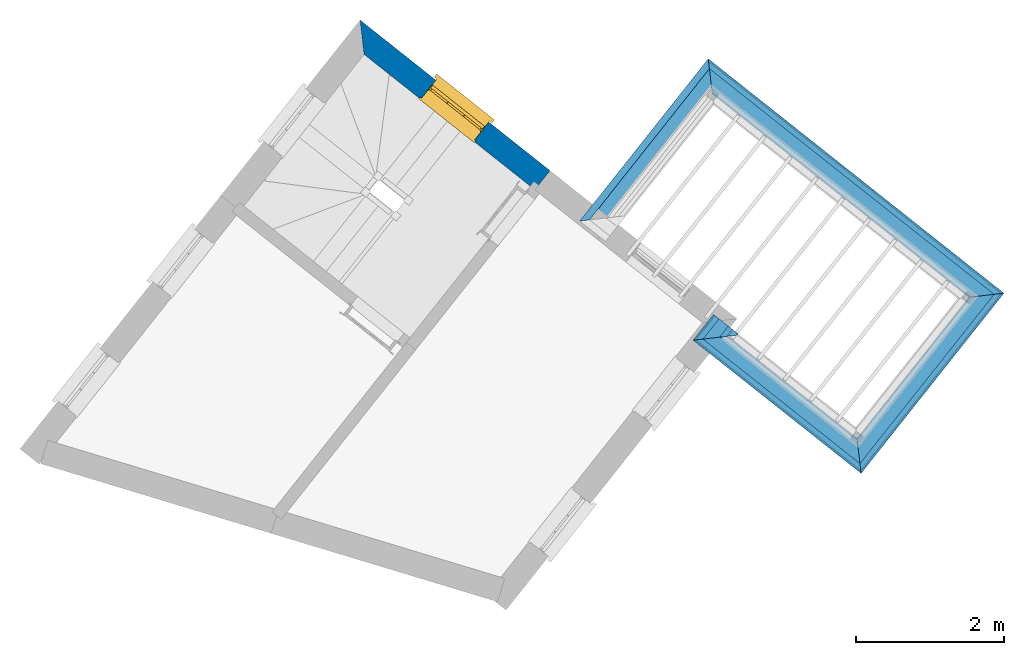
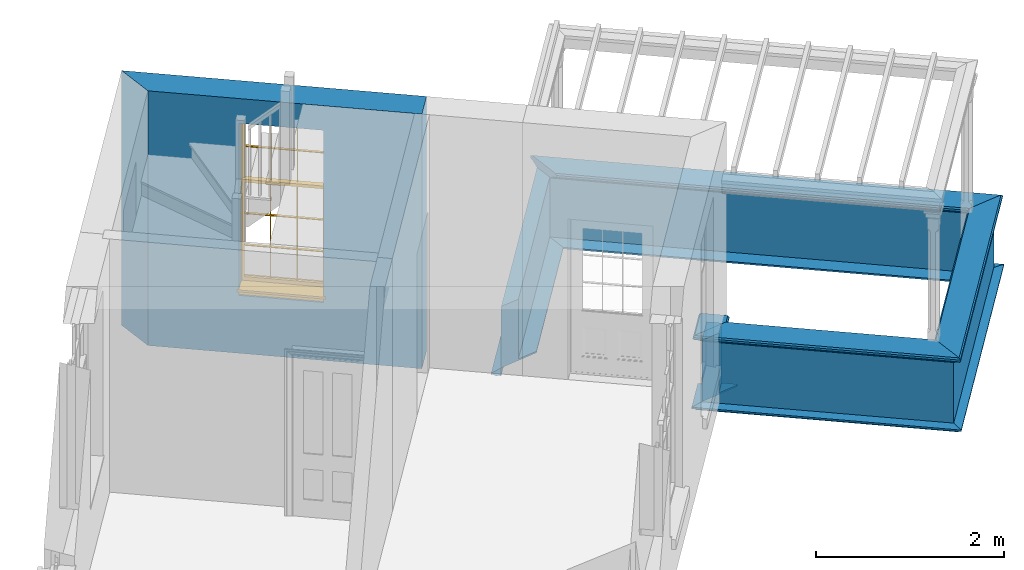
# One storey, part 4 of 6: 15 walls, 1 window, 1 opening.
"""IFC4 building model written with IfcOpenShell, lengths in metres."""

from ifc_helpers import new_model, si_unit, frame, origin, origin_with_axes, place, context, subcontext, project, spatial, polyline, outline, extrude, clip, halfspace, faceted_brep, source, transform, mapped, material, layer, layer_set, layer_usage, material_profile, profile_set, profile_usage, type_object, type_shapes, element, fill, save


model = new_model("IFC4")

# Units and contexts
model_context = context("Model", 3, world=origin_with_axes())
body_context = subcontext(model_context, "Body", "Model", "MODEL_VIEW")
ifc_project = project(units=[si_unit("PLANEANGLEUNIT", "RADIAN"), si_unit("MASSUNIT", "GRAM", prefix="KILO"), si_unit("FORCEUNIT", "NEWTON", prefix="KILO"), si_unit("LENGTHUNIT", "METRE"), si_unit("AREAUNIT", "SQUARE_METRE"), si_unit("VOLUMEUNIT", "CUBIC_METRE")], contexts=[model_context, model_context])

# Sites, building, storey
site_1_placement = place(None, origin_with_axes())
site_1 = spatial("IfcSite", under=ifc_project, at=site_1_placement, Name="Tamar")
site_2_placement = place(site_1_placement, origin_with_axes())
site_2 = spatial("IfcSite", under=site_1, at=site_2_placement, Name="Site plot-5", CompositionType="ELEMENT")
building_placement = place(None, origin_with_axes())
building = spatial("IfcBuilding", under=site_2, at=building_placement, Name="Building plot-5", CompositionType="ELEMENT")
storey_placement = place(None, frame((0.0, 0.0, 26.85), z_axis=(0.0, 0.0, 1.0), x_axis=(1.0, 0.0, 0.0)))
storey = spatial("IfcBuildingStorey", under=building, at=storey_placement, Name="plot-5 1", CompositionType="ELEMENT", Elevation=26.85)

# Wall, opening, window
ifc_material = material(Name="Masonry")
ifc_layer = layer(ifc_material, 0.33, ventilated=False)
ifc_layer_set = layer_set([ifc_layer], Name="exterior_0.08_0.25")
ifc_layer_usage = layer_usage(ifc_layer_set, "AXIS2", "POSITIVE", -0.25)
wall_type_1 = type_object("IfcWallType", Name="exterior_0.08_0.25", PredefinedType="SOLIDWALL", material=ifc_layer_set)
wall_1_placement = place(storey_placement, frame((231.883370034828, 275.676458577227, 0.0), z_axis=(0.0, 0.0, 1.0), x_axis=(-0.783658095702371, 0.621192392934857, 0.0)))
wall_1 = element("IfcWall", 1, at=wall_1_placement, inside=storey, type_object=wall_type_1, material=ifc_layer_usage, Name="exterior", context=body_context, shape_type="SweptSolid", body=[
    extrude(outline(polyline([(-4.75573774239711e-15, 0.0800000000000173), (-7.97829769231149e-15, -0.249999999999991), (3.27031657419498, -0.249999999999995), (2.94031657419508, 0.0799999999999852), (-4.75573774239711e-15, 0.0800000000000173)])), origin_with_axes(), (0.0, 0.0, 1.0), 3.3),
])
opening_placement = place(wall_1_placement, frame((1.0551582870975, 0.0, 0.75)))
opening = element("IfcOpeningElement", 2, at=opening_placement, cuts=wall_1, Name="My Opening", ObjectType="Opening", context=body_context, shape_type="SweptSolid", body=[
    extrude(outline(polyline([(0.0, -0.269999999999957), (0.910000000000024, -0.269999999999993), (0.910000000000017, 1.09999999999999), (-6.88338275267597e-15, 1.10000000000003), (0.0, -0.269999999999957)])), origin_with_axes(), (0.0, 0.0, 1.0), 2.23),
])
window_type = type_object("IfcWindowType", Name="sash_big_taller", PartitioningType="DOUBLE_PANEL_HORIZONTAL", PredefinedType="NOTDEFINED")
shared_shape = source(origin(), body_context, "Body", "Brep", [
    faceted_brep([(0.033125, 0.145, 1.385209), (0.01, 0.145, 1.385209), (0.033125, 0.145, 1.786042), (0.876875, 0.145, 1.385209), (0.876875, 0.145, 1.786042), (0.9, 0.145, 1.385209), (0.876875, 0.145, 1.796042), (0.876875, 0.145, 2.196875), (0.9, 0.145, 2.22), (0.033125, 0.145, 2.196875), (0.033125, 0.145, 1.796042), (0.01, 0.145, 2.22), (0.876875, 0.115, 1.786042), (0.876875, 0.115, 1.385209), (0.9, 0.115, 1.347084), (0.033125, 0.115, 2.196875), (0.01, 0.115, 2.22), (0.033125, 0.115, 1.796042), (0.01, 0.115, 1.347084), (0.033125, 0.115, 1.385209), (0.033125, 0.115, 1.786042), (0.876875, 0.115, 2.196875), (0.876875, 0.115, 1.796042), (0.9, 0.115, 2.22), (0.033125, 0.145, 1.347084), (0.01, 0.145, 1.347084), (0.033125, 0.145, 0.94625), (0.876875, 0.145, 1.347084), (0.876875, 0.145, 0.94625), (0.9, 0.145, 1.347084), (0.876875, 0.145, 0.52625), (0.876875, 0.145, 0.125417), (0.9, 0.145, 0.077167), (0.033125, 0.145, 0.125417), (0.033125, 0.145, 0.52625), (0.01, 0.145, 0.077167), (-0.0425, 0.0, 0.01), (-0.0425, -0.05, 0.001667), (0.0, 0.0, 0.01), (0.9525, 0.0, 0.01), (0.91, 0.0, 0.01), (0.9525, -0.05, 0.001667), (-0.02, 0.33, 0.077167), (0.0, 0.33, 0.077167), (-0.02, 0.36, 0.077167), (0.0, 0.19, 0.077167), (0.01, 0.19, 0.077167), (0.91, 0.19, 0.077167), (0.91, 0.33, 0.077167), (0.9, 0.19, 0.077167), (0.93, 0.33, 0.077167), (0.93, 0.36, 0.077167), (0.01, 0.175, 1.385209), (0.9, 0.175, 1.385209), (0.876875, 0.175, 0.125417), (0.876875, 0.175, 0.52625), (0.9, 0.175, 0.077167), (0.876875, 0.175, 0.94625), (0.876875, 0.175, 1.347084), (0.033125, 0.175, 0.125417), (0.01, 0.175, 0.077167), (0.033125, 0.175, 0.52625), (0.033125, 0.175, 1.347084), (0.033125, 0.175, 0.94625), (-0.02, 0.33, 0.052167), (-0.02, 0.36, 0.052167), (0.93, 0.36, 0.052167), (0.93, 0.33, 0.052167), (0.91, 0.33, 0.052167), (0.0, 0.33, 0.052167), (0.91, 0.1, 0.026667), (0.0, 0.1, 0.026667), (-0.0425, -0.05, -0.123333), (0.9525, -0.05, -0.123333), (-0.0425, 0.0, -0.123333), (0.9525, 0.0, -0.123333), (0.01, 0.19, 2.22), (0.9, 0.19, 2.22), (0.0, 0.19, 2.23), (0.91, 0.19, 2.23), (0.01, 0.1, 0.077167), (0.9, 0.1, 0.077167), (0.592292, 0.145, 0.125417), (0.592292, 0.175, 0.125417), (0.317708, 0.175, 0.125417), (0.317708, 0.145, 0.125417), (0.592292, 0.145, 0.53625), (0.317708, 0.145, 0.53625), (0.317708, 0.145, 0.52625), (0.592292, 0.145, 0.52625), (0.592292, 0.175, 0.53625), (0.317708, 0.175, 0.53625), (0.592292, 0.115, 1.796042), (0.592292, 0.145, 1.796042), (0.317708, 0.145, 1.796042), (0.317708, 0.115, 1.796042), (0.317708, 0.115, 1.786042), (0.592292, 0.115, 1.786042), (0.317708, 0.145, 1.786042), (0.592292, 0.145, 1.786042), (0.602292, 0.115, 1.786042), (0.592292, 0.115, 1.385209), (0.602292, 0.115, 1.385209), (0.602292, 0.145, 1.385209), (0.592292, 0.145, 1.385209), (0.602292, 0.145, 1.786042), (0.876875, 0.145, 0.53625), (0.876875, 0.175, 0.53625), (0.602292, 0.175, 0.53625), (0.602292, 0.145, 0.53625), (0.317708, 0.175, 0.52625), (0.307708, 0.175, 0.125417), (0.307708, 0.175, 0.52625), (0.602292, 0.175, 0.52625), (0.602292, 0.175, 0.125417), (0.592292, 0.175, 0.52625), (0.307708, 0.175, 0.53625), (0.033125, 0.175, 0.53625), (0.317708, 0.175, 1.347084), (0.317708, 0.175, 0.94625), (0.307708, 0.175, 0.94625), (0.307708, 0.175, 1.347084), (0.602292, 0.175, 1.347084), (0.602292, 0.175, 0.94625), (0.592292, 0.175, 0.94625), (0.592292, 0.175, 1.347084), (0.307708, 0.145, 0.52625), (0.307708, 0.145, 0.125417), (0.307708, 0.145, 0.53625), (0.033125, 0.145, 0.53625), (0.307708, 0.145, 1.347084), (0.307708, 0.145, 0.94625), (0.592292, 0.145, 1.347084), (0.592292, 0.145, 0.94625), (0.317708, 0.145, 0.94625), (0.317708, 0.145, 1.347084), (0.602292, 0.145, 0.94625), (0.602292, 0.145, 1.347084), (0.602292, 0.145, 0.52625), (0.602292, 0.145, 0.125417), (0.307708, 0.115, 1.796042), (0.307708, 0.115, 1.786042), (0.307708, 0.115, 1.385209), (0.317708, 0.115, 1.385209), (0.317708, 0.115, 2.196875), (0.307708, 0.115, 2.196875), (0.602292, 0.115, 2.196875), (0.592292, 0.115, 2.196875), (0.602292, 0.115, 1.796042), (0.602292, 0.145, 1.796042), (0.307708, 0.145, 1.796042), (0.307708, 0.145, 2.196875), (0.317708, 0.145, 2.196875), (0.592292, 0.145, 2.196875), (0.602292, 0.145, 2.196875), (0.307708, 0.145, 1.786042), (0.317708, 0.145, 1.385209), (0.307708, 0.145, 1.385209), (0.876875, 0.175, 0.93625), (0.033125, 0.175, 0.93625), (0.033125, 0.145, 0.93625), (0.876875, 0.145, 0.93625), (0.91, 0.1, 2.23), (0.9, 0.1, 2.22), (0.01, 0.1, 2.22), (0.0, 0.1, 2.23), (0.91, 0.0, 0.0), (0.0, 0.0, 0.0), (0.91, 0.33, 0.0), (0.0, 0.33, 0.0), (0.317708, 0.145, 0.93625), (0.592292, 0.145, 0.93625), (0.317708, 0.175, 0.93625), (0.307708, 0.175, 0.93625), (0.602292, 0.175, 0.93625), (0.592292, 0.175, 0.93625), (0.307708, 0.145, 0.93625), (0.602292, 0.145, 0.93625)], [[[0, 1, 2]], [[3, 4, 5]], [[6, 7, 8]], [[9, 10, 11]], [[12, 13, 14]], [[15, 16, 17]], [[18, 19, 20]], [[21, 22, 23]], [[24, 25, 26]], [[27, 28, 29]], [[30, 31, 32]], [[33, 34, 35]], [[14, 27, 29]], [[25, 24, 18]], [[36, 37, 38]], [[39, 40, 41]], [[42, 43, 44]], [[45, 46, 43]], [[47, 48, 49]], [[50, 51, 48]], [[1, 0, 52]], [[5, 53, 3]], [[54, 55, 56]], [[57, 58, 53]], [[59, 60, 61]], [[62, 63, 52]], [[48, 43, 46, 49]], [[51, 44, 43, 48]], [[64, 42, 44, 65]], [[65, 44, 51, 66]], [[66, 51, 50, 67]], [[65, 66, 68, 69]], [[60, 56, 49, 46]], [[70, 71, 38, 40]], [[37, 41, 40, 38]], [[37, 72, 73, 41]], [[74, 75, 73, 72]], [[8, 11, 76, 77]], [[76, 78, 79, 77]], [[32, 35, 80, 81]], [[81, 80, 71, 70]], [[82, 83, 84, 85]], [[86, 87, 88, 89]], [[86, 90, 91, 87]], [[92, 93, 94, 95]], [[92, 95, 96, 97]], [[96, 98, 99, 97]], [[100, 97, 101, 102]], [[103, 104, 99, 105]], [[97, 99, 104, 101]], [[102, 103, 105, 100]], [[106, 107, 108, 109]], [[110, 84, 111, 112]], [[113, 114, 83, 115]], [[116, 112, 61, 117]], [[90, 115, 110, 91]], [[118, 119, 120, 121]], [[122, 123, 124, 125]], [[113, 108, 107, 55]], [[126, 112, 111, 127]], [[34, 61, 112, 126]], [[89, 115, 83, 82]], [[88, 110, 115, 89]], [[85, 84, 110, 88]], [[128, 116, 117, 129]], [[130, 121, 120, 131]], [[132, 125, 124, 133]], [[134, 119, 118, 135]], [[136, 123, 122, 137]], [[138, 113, 55, 30]], [[139, 114, 113, 138]], [[138, 30, 106, 109]], [[88, 126, 127, 85]], [[138, 89, 82, 139]], [[137, 132, 133, 136]], [[128, 129, 34, 126]], [[135, 130, 131, 134]], [[140, 17, 20, 141]], [[96, 141, 142, 143]], [[144, 145, 140, 95]], [[146, 147, 92, 148]], [[100, 12, 22, 148]], [[149, 6, 4, 105]], [[94, 150, 151, 152]], [[149, 93, 153, 154]], [[99, 98, 94, 93]], [[155, 2, 10, 150]], [[156, 157, 155, 98]], [[141, 155, 157, 142]], [[20, 2, 155, 141]], [[143, 156, 98, 96]], [[140, 150, 10, 17]], [[145, 151, 150, 140]], [[147, 153, 93, 92]], [[95, 94, 152, 144]], [[22, 6, 149, 148]], [[148, 149, 154, 146]], [[100, 105, 4, 12]], [[109, 86, 89, 138]], [[108, 113, 115, 90]], [[91, 110, 112, 116]], [[87, 128, 126, 88]], [[97, 100, 148, 92]], [[141, 96, 95, 140]], [[98, 155, 150, 94]], [[105, 99, 93, 149]], [[143, 101, 104, 156]], [[135, 118, 125, 132]], [[144, 152, 153, 147]], [[127, 111, 59, 33]], [[15, 9, 151, 145]], [[146, 154, 7, 21]], [[31, 54, 114, 139]], [[36, 74, 72, 37]], [[39, 41, 73, 75]], [[18, 14, 101, 143]], [[23, 16, 144, 147]], [[83, 56, 60, 84]], [[52, 53, 125, 118]], [[53, 52, 156, 104]], [[11, 8, 153, 152]], [[14, 18, 135, 132]], [[2, 1, 11, 10]], [[8, 5, 4, 6]], [[57, 53, 56, 158]], [[60, 52, 63, 159]], [[26, 25, 35, 160]], [[32, 29, 28, 161]], [[14, 23, 22, 12]], [[18, 20, 17, 16]], [[19, 0, 2, 20]], [[17, 10, 9, 15]], [[12, 4, 3, 13]], [[21, 7, 6, 22]], [[27, 58, 57, 28]], [[30, 55, 54, 31]], [[33, 59, 61, 34]], [[26, 63, 62, 24]], [[5, 8, 77, 53]], [[76, 11, 1, 52]], [[46, 45, 78, 76]], [[49, 77, 79, 47]], [[70, 162, 163, 81]], [[71, 80, 164, 165]], [[19, 142, 157, 0]], [[102, 13, 3, 103]], [[121, 130, 24, 62]], [[29, 32, 81, 14]], [[80, 35, 25, 18]], [[60, 46, 76, 52]], [[77, 49, 56, 53]], [[23, 14, 81, 163]], [[16, 164, 80, 18]], [[35, 85, 127]], [[127, 33, 35]], [[139, 82, 32]], [[32, 31, 139]], [[32, 82, 85, 35]], [[102, 101, 14]], [[14, 13, 102]], [[18, 143, 142]], [[142, 19, 18]], [[146, 21, 23]], [[23, 147, 146]], [[16, 15, 145]], [[145, 144, 16]], [[11, 152, 151]], [[151, 9, 11]], [[154, 153, 8]], [[8, 7, 154]], [[23, 163, 164, 16]], [[162, 165, 164, 163]], [[52, 118, 121]], [[121, 62, 52]], [[125, 53, 122]], [[58, 122, 53]], [[27, 137, 122, 58]], [[56, 83, 114]], [[114, 54, 56]], [[111, 84, 60]], [[60, 59, 111]], [[137, 27, 14]], [[14, 132, 137]], [[130, 135, 18]], [[18, 24, 130]], [[157, 156, 52]], [[52, 0, 157]], [[103, 3, 53]], [[53, 104, 103]], [[79, 78, 165, 162]], [[78, 45, 71, 165]], [[162, 70, 47, 79]], [[166, 75, 74, 167]], [[68, 66, 67]], [[48, 68, 67, 50]], [[69, 64, 65]], [[42, 64, 69, 43]], [[69, 68, 168, 169]], [[70, 68, 48, 47]], [[166, 168, 68, 70]], [[43, 69, 71, 45]], [[69, 169, 167, 71]], [[168, 166, 167, 169]], [[38, 167, 74, 36]], [[71, 167, 38]], [[39, 75, 166, 40]], [[40, 166, 70]], [[133, 134, 170, 171]], [[133, 124, 119, 134]], [[28, 57, 123, 136]], [[172, 91, 116, 173]], [[174, 108, 90, 175]], [[120, 173, 159, 63]], [[124, 175, 172, 119]], [[174, 123, 57, 158]], [[176, 173, 116, 128]], [[160, 159, 173, 176]], [[171, 175, 90, 86]], [[170, 172, 175, 171]], [[87, 91, 172, 170]], [[131, 120, 63, 26]], [[177, 174, 158, 161]], [[109, 108, 174, 177]], [[177, 161, 28, 136]], [[170, 176, 128, 87]], [[177, 171, 86, 109]], [[131, 26, 160, 176]], [[136, 133, 171, 177]], [[123, 174, 175, 124]], [[119, 172, 173, 120]], [[134, 131, 176, 170]], [[129, 117, 159, 160]], [[161, 158, 107, 106]], [[35, 34, 129]], [[35, 129, 160]], [[32, 106, 30]], [[32, 161, 106]], [[56, 55, 107]], [[56, 107, 158]], [[60, 117, 61]], [[60, 159, 117]]]),
])
type_shapes(window_type, [shared_shape])
window_placement = place(storey_placement, frame((231.224208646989, 276.543502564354, 0.75), z_axis=(0.0, 0.0, 1.0), x_axis=(-0.713128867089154, 0.565285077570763, 0.0)))
window = element("IfcWindow", 3, at=window_placement, inside=storey, type_object=window_type, Name="circulation outside window", OverallHeight=2.23, OverallWidth=0.91, context=body_context, shape_type="MappedRepresentation", body=[
    mapped(shared_shape, transform((0.0, 0.0, 0.0), scale=1.0)),
])
fill(opening, window)

# Walls
ifc_material_profile_1 = material_profile(None, outline(polyline([(0.25, 0.0), (0.25, 0.795), (0.09, 0.795), (0.09, 0.02), (-0.08, 0.02), (-0.08, 0.0), (0.25, 0.0)])))
ifc_profile_set_1 = profile_set([ifc_material_profile_1])
ifc_profile_usage_1 = profile_usage(ifc_profile_set_1)
wall_type_2 = type_object("IfcWallType", Name="parapet_0", PredefinedType="PARAPET", material=ifc_profile_set_1)
wall_2_placement = place(storey_placement, frame((233.83006276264, 272.857281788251, 0.0), z_axis=(0.621192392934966, 0.783658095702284, 0.0), x_axis=(-0.783658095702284, 0.621192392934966, 0.0)))
element("IfcWall", 4, at=wall_2_placement, inside=storey, type_object=wall_type_2, material=ifc_profile_usage_1, Name="parapet_0", context=body_context, shape_type="Clipping", body=[
    clip(clip(extrude(outline(polyline([(0.25, 0.0), (0.25, 0.795), (0.09, 0.795), (0.09, 0.02), (-0.08, 0.02), (-0.08, 0.0), (0.25, 0.0)])), origin_with_axes(), (0.0, 0.0, 1.0), 2.10000000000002), halfspace(frame((0.0, 0.0, 1.10000000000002), z_axis=(-6.12323399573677e-17, 0.0, -1.0), x_axis=(0.0, 1.0, 0.0)), True)), halfspace(frame((0.0, 0.0, 1.0), z_axis=(-0.707106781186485, 0.0, -0.707106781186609), x_axis=(0.0, 1.0, 0.0)), False)),
])
ifc_profile_usage_2 = profile_usage(ifc_profile_set_1)
wall_3_placement = place(storey_placement, frame((236.961226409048, 271.651328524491, 0.0), z_axis=(-0.783658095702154, 0.62119239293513, 0.0), x_axis=(-0.62119239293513, -0.783658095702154, 0.0)))
element("IfcWall", 5, at=wall_3_placement, inside=storey, type_object=wall_type_2, material=ifc_profile_usage_2, Name="parapet_0", context=body_context, shape_type="Clipping", body=[
    clip(clip(extrude(outline(polyline([(0.25, 0.0), (0.25, 0.795), (0.09, 0.795), (0.09, 0.02), (-0.08, 0.02), (-0.08, 0.0), (0.25, 0.0)])), origin_with_axes(), (0.0, 0.0, 1.0), 4.20289073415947), halfspace(frame((0.0, 0.0, 3.20289073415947), z_axis=(0.707106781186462, 0.0, -0.707106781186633), x_axis=(0.0, 1.0, 0.0)), True)), halfspace(frame((0.0, 0.0, 1.0), z_axis=(-0.707106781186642, 0.0, -0.707106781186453), x_axis=(0.0, 1.0, 0.0)), False)),
])
ifc_profile_usage_3 = profile_usage(ifc_profile_set_1)
wall_4_placement = place(storey_placement, frame((238.297471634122, 274.946860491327, 0.0), z_axis=(-0.62119239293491, -0.783658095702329, 0.0), x_axis=(0.783658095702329, -0.62119239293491, 0.0)))
element("IfcWall", 6, at=wall_4_placement, inside=storey, type_object=wall_type_2, material=ifc_profile_usage_3, Name="parapet_0", context=body_context, shape_type="Clipping", body=[
    clip(clip(extrude(outline(polyline([(0.25, 0.0), (0.25, 0.795), (0.09, 0.795), (0.09, 0.02), (-0.08, 0.02), (-0.08, 0.0), (0.25, 0.0)])), origin_with_axes(), (0.0, 0.0, 1.0), 4.41263567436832), halfspace(frame((0.0, 0.0, 3.41263567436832), z_axis=(0.707106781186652, 0.0, -0.707106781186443), x_axis=(0.0, 1.0, 0.0)), True)), halfspace(frame((0.0, 0.0, 1.0), z_axis=(-0.707106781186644, 0.0, -0.707106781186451), x_axis=(0.0, 1.0, 0.0)), False)),
])
ifc_profile_usage_4 = profile_usage(ifc_profile_set_1)
wall_5_placement = place(storey_placement, frame((233.444599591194, 277.517582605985, 0.0), z_axis=(0.783658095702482, -0.621192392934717, 0.0), x_axis=(0.621192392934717, 0.783658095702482, 0.0)))
element("IfcWall", 7, at=wall_5_placement, inside=storey, type_object=wall_type_2, material=ifc_profile_usage_4, Name="parapet_0", context=body_context, shape_type="Clipping", body=[
    clip(clip(extrude(outline(polyline([(0.25, 0.0), (0.25, 0.795), (0.09, 0.795), (0.09, 0.02), (-0.08, 0.02), (-0.08, 0.0), (0.25, 0.0)])), origin_with_axes(), (0.0, 0.0, 1.0), 6.39990548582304), halfspace(frame((0.0, 0.0, 5.39990548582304), z_axis=(0.707106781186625, 0.0, -0.70710678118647), x_axis=(0.0, 1.0, 0.0)), True)), halfspace(frame((0.0, 0.0, 1.0), z_axis=(-0.707106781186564, 0.0, -0.70710678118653), x_axis=(0.0, 1.0, 0.0)), False)),
])
ifc_profile_usage_5 = profile_usage(ifc_profile_set_1)
wall_6_placement = place(storey_placement, frame((232.300924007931, 274.464984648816, 0.0), z_axis=(0.621192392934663, 0.783658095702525, 0.0), x_axis=(-0.783658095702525, 0.621192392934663, 0.0)))
element("IfcWall", 8, at=wall_6_placement, inside=storey, type_object=wall_type_2, material=ifc_profile_usage_5, Name="parapet_0", context=body_context, shape_type="Clipping", body=[
    clip(clip(extrude(outline(polyline([(0.25, 0.0), (0.25, 0.795), (0.09, 0.795), (0.09, 0.02), (-0.08, 0.02), (-0.08, 0.0), (0.25, 0.0)])), origin_with_axes(), (0.0, 0.0, 1.0), 4.10263567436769), halfspace(frame((0.0, 0.0, 3.10263567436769), z_axis=(0.707106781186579, 0.0, -0.707106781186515), x_axis=(0.0, 1.0, 0.0)), True)), halfspace(frame((0.0, 0.0, 1.0), z_axis=(-0.707106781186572, 0.0, -0.707106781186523), x_axis=(0.0, 1.0, 0.0)), False)),
])
ifc_material_profile_2 = material_profile(None, outline(polyline([(0.265, 0.795), (0.268, 0.807), (0.274, 0.816), (0.283, 0.822), (0.295, 0.825), (0.295, 0.84), (0.305, 0.84), (0.317, 0.842), (0.326, 0.849), (0.333, 0.858), (0.335, 0.87), (0.333, 0.882), (0.326, 0.891), (0.317, 0.898), (0.305, 0.9), (0.035, 0.9), (0.023, 0.898), (0.014, 0.891), (0.007, 0.882), (0.005, 0.87), (0.007, 0.858), (0.014, 0.849), (0.023, 0.842), (0.035, 0.84), (0.045, 0.84), (0.045, 0.825), (0.057, 0.822), (0.066, 0.816), (0.072, 0.807), (0.075, 0.795), (0.265, 0.795)])))
ifc_profile_set_2 = profile_set([ifc_material_profile_2])
ifc_profile_usage_6 = profile_usage(ifc_profile_set_2)
wall_type_3 = type_object("IfcWallType", Name="parapet_1", PredefinedType="PARAPET", material=ifc_profile_set_2)
wall_7_placement = place(storey_placement, frame((233.83006276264, 272.857281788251, 0.0), z_axis=(0.621192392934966, 0.783658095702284, 0.0), x_axis=(-0.783658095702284, 0.621192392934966, 0.0)))
element("IfcWall", 9, at=wall_7_placement, inside=storey, type_object=wall_type_3, material=ifc_profile_usage_6, Name="parapet_1", context=body_context, shape_type="Clipping", body=[
    clip(clip(extrude(outline(polyline([(0.265, 0.795), (0.268, 0.807), (0.274, 0.816), (0.283, 0.822), (0.295, 0.825), (0.295, 0.84), (0.305, 0.84), (0.317, 0.842), (0.326, 0.849), (0.333, 0.858), (0.335, 0.87), (0.333, 0.882), (0.326, 0.891), (0.317, 0.898), (0.305, 0.9), (0.035, 0.9), (0.023, 0.898), (0.014, 0.891), (0.007, 0.882), (0.005, 0.87), (0.007, 0.858), (0.014, 0.849), (0.023, 0.842), (0.035, 0.84), (0.045, 0.84), (0.045, 0.825), (0.057, 0.822), (0.066, 0.816), (0.072, 0.807), (0.075, 0.795), (0.265, 0.795)])), origin_with_axes(), (0.0, 0.0, 1.0), 2.10000000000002), halfspace(frame((0.0, 0.0, 1.10000000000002), z_axis=(-6.12323399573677e-17, 0.0, -1.0), x_axis=(0.0, 1.0, 0.0)), True)), halfspace(frame((0.0, 0.0, 1.0), z_axis=(-0.707106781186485, 0.0, -0.707106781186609), x_axis=(0.0, 1.0, 0.0)), False)),
])
ifc_profile_usage_7 = profile_usage(ifc_profile_set_2)
wall_8_placement = place(storey_placement, frame((236.961226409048, 271.651328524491, 0.0), z_axis=(-0.783658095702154, 0.62119239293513, 0.0), x_axis=(-0.62119239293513, -0.783658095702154, 0.0)))
element("IfcWall", 10, at=wall_8_placement, inside=storey, type_object=wall_type_3, material=ifc_profile_usage_7, Name="parapet_1", context=body_context, shape_type="Clipping", body=[
    clip(clip(extrude(outline(polyline([(0.265, 0.795), (0.268, 0.807), (0.274, 0.816), (0.283, 0.822), (0.295, 0.825), (0.295, 0.84), (0.305, 0.84), (0.317, 0.842), (0.326, 0.849), (0.333, 0.858), (0.335, 0.87), (0.333, 0.882), (0.326, 0.891), (0.317, 0.898), (0.305, 0.9), (0.035, 0.9), (0.023, 0.898), (0.014, 0.891), (0.007, 0.882), (0.005, 0.87), (0.007, 0.858), (0.014, 0.849), (0.023, 0.842), (0.035, 0.84), (0.045, 0.84), (0.045, 0.825), (0.057, 0.822), (0.066, 0.816), (0.072, 0.807), (0.075, 0.795), (0.265, 0.795)])), origin_with_axes(), (0.0, 0.0, 1.0), 4.20289073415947), halfspace(frame((0.0, 0.0, 3.20289073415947), z_axis=(0.707106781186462, 0.0, -0.707106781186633), x_axis=(0.0, 1.0, 0.0)), True)), halfspace(frame((0.0, 0.0, 1.0), z_axis=(-0.707106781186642, 0.0, -0.707106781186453), x_axis=(0.0, 1.0, 0.0)), False)),
])
ifc_profile_usage_8 = profile_usage(ifc_profile_set_2)
wall_9_placement = place(storey_placement, frame((238.297471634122, 274.946860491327, 0.0), z_axis=(-0.62119239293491, -0.783658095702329, 0.0), x_axis=(0.783658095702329, -0.62119239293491, 0.0)))
element("IfcWall", 11, at=wall_9_placement, inside=storey, type_object=wall_type_3, material=ifc_profile_usage_8, Name="parapet_1", context=body_context, shape_type="Clipping", body=[
    clip(clip(extrude(outline(polyline([(0.265, 0.795), (0.268, 0.807), (0.274, 0.816), (0.283, 0.822), (0.295, 0.825), (0.295, 0.84), (0.305, 0.84), (0.317, 0.842), (0.326, 0.849), (0.333, 0.858), (0.335, 0.87), (0.333, 0.882), (0.326, 0.891), (0.317, 0.898), (0.305, 0.9), (0.035, 0.9), (0.023, 0.898), (0.014, 0.891), (0.007, 0.882), (0.005, 0.87), (0.007, 0.858), (0.014, 0.849), (0.023, 0.842), (0.035, 0.84), (0.045, 0.84), (0.045, 0.825), (0.057, 0.822), (0.066, 0.816), (0.072, 0.807), (0.075, 0.795), (0.265, 0.795)])), origin_with_axes(), (0.0, 0.0, 1.0), 4.41263567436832), halfspace(frame((0.0, 0.0, 3.41263567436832), z_axis=(0.707106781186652, 0.0, -0.707106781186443), x_axis=(0.0, 1.0, 0.0)), True)), halfspace(frame((0.0, 0.0, 1.0), z_axis=(-0.707106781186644, 0.0, -0.707106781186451), x_axis=(0.0, 1.0, 0.0)), False)),
])
ifc_profile_usage_9 = profile_usage(ifc_profile_set_2)
wall_10_placement = place(storey_placement, frame((233.444599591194, 277.517582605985, 0.0), z_axis=(0.783658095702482, -0.621192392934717, 0.0), x_axis=(0.621192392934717, 0.783658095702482, 0.0)))
element("IfcWall", 12, at=wall_10_placement, inside=storey, type_object=wall_type_3, material=ifc_profile_usage_9, Name="parapet_1", context=body_context, shape_type="Clipping", body=[
    clip(clip(extrude(outline(polyline([(0.265, 0.795), (0.268, 0.807), (0.274, 0.816), (0.283, 0.822), (0.295, 0.825), (0.295, 0.84), (0.305, 0.84), (0.317, 0.842), (0.326, 0.849), (0.333, 0.858), (0.335, 0.87), (0.333, 0.882), (0.326, 0.891), (0.317, 0.898), (0.305, 0.9), (0.035, 0.9), (0.023, 0.898), (0.014, 0.891), (0.007, 0.882), (0.005, 0.87), (0.007, 0.858), (0.014, 0.849), (0.023, 0.842), (0.035, 0.84), (0.045, 0.84), (0.045, 0.825), (0.057, 0.822), (0.066, 0.816), (0.072, 0.807), (0.075, 0.795), (0.265, 0.795)])), origin_with_axes(), (0.0, 0.0, 1.0), 6.39990548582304), halfspace(frame((0.0, 0.0, 5.39990548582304), z_axis=(0.707106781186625, 0.0, -0.70710678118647), x_axis=(0.0, 1.0, 0.0)), True)), halfspace(frame((0.0, 0.0, 1.0), z_axis=(-0.707106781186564, 0.0, -0.70710678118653), x_axis=(0.0, 1.0, 0.0)), False)),
])
ifc_material_profile_3 = material_profile(None, outline(polyline([(0.25, -0.1), (0.265, -0.1), (0.265, -0.085), (0.278, -0.084), (0.289, -0.081), (0.301, -0.074), (0.309, -0.065), (0.315, -0.055), (0.324, -0.044), (0.334, -0.038), (0.345, -0.035), (0.345, -0.015), (0.25, 0.0), (0.25, -0.1)])))
ifc_profile_set_3 = profile_set([ifc_material_profile_3])
ifc_profile_usage_10 = profile_usage(ifc_profile_set_3)
wall_type_4 = type_object("IfcWallType", Name="parapet_2", PredefinedType="PARAPET", material=ifc_profile_set_3)
wall_11_placement = place(storey_placement, frame((233.83006276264, 272.857281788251, 0.0), z_axis=(0.621192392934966, 0.783658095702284, 0.0), x_axis=(-0.783658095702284, 0.621192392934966, 0.0)))
element("IfcWall", 13, at=wall_11_placement, inside=storey, type_object=wall_type_4, material=ifc_profile_usage_10, Name="parapet_2", context=body_context, shape_type="Clipping", body=[
    clip(clip(extrude(outline(polyline([(0.25, -0.1), (0.265, -0.1), (0.265, -0.085), (0.278, -0.084), (0.289, -0.081), (0.301, -0.074), (0.309, -0.065), (0.315, -0.055), (0.324, -0.044), (0.334, -0.038), (0.345, -0.035), (0.345, -0.015), (0.25, 0.0), (0.25, -0.1)])), origin_with_axes(), (0.0, 0.0, 1.0), 2.10000000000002), halfspace(frame((0.0, 0.0, 1.10000000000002), z_axis=(-6.12323399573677e-17, 0.0, -1.0), x_axis=(0.0, 1.0, 0.0)), True)), halfspace(frame((0.0, 0.0, 1.0), z_axis=(-0.707106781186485, 0.0, -0.707106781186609), x_axis=(0.0, 1.0, 0.0)), False)),
])
ifc_profile_usage_11 = profile_usage(ifc_profile_set_3)
wall_12_placement = place(storey_placement, frame((236.961226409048, 271.651328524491, 0.0), z_axis=(-0.783658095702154, 0.62119239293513, 0.0), x_axis=(-0.62119239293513, -0.783658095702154, 0.0)))
element("IfcWall", 14, at=wall_12_placement, inside=storey, type_object=wall_type_4, material=ifc_profile_usage_11, Name="parapet_2", context=body_context, shape_type="Clipping", body=[
    clip(clip(extrude(outline(polyline([(0.25, -0.1), (0.265, -0.1), (0.265, -0.085), (0.278, -0.084), (0.289, -0.081), (0.301, -0.074), (0.309, -0.065), (0.315, -0.055), (0.324, -0.044), (0.334, -0.038), (0.345, -0.035), (0.345, -0.015), (0.25, 0.0), (0.25, -0.1)])), origin_with_axes(), (0.0, 0.0, 1.0), 4.20289073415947), halfspace(frame((0.0, 0.0, 3.20289073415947), z_axis=(0.707106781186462, 0.0, -0.707106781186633), x_axis=(0.0, 1.0, 0.0)), True)), halfspace(frame((0.0, 0.0, 1.0), z_axis=(-0.707106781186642, 0.0, -0.707106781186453), x_axis=(0.0, 1.0, 0.0)), False)),
])
ifc_profile_usage_12 = profile_usage(ifc_profile_set_3)
wall_13_placement = place(storey_placement, frame((238.297471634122, 274.946860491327, 0.0), z_axis=(-0.62119239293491, -0.783658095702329, 0.0), x_axis=(0.783658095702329, -0.62119239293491, 0.0)))
element("IfcWall", 15, at=wall_13_placement, inside=storey, type_object=wall_type_4, material=ifc_profile_usage_12, Name="parapet_2", context=body_context, shape_type="Clipping", body=[
    clip(clip(extrude(outline(polyline([(0.25, -0.1), (0.265, -0.1), (0.265, -0.085), (0.278, -0.084), (0.289, -0.081), (0.301, -0.074), (0.309, -0.065), (0.315, -0.055), (0.324, -0.044), (0.334, -0.038), (0.345, -0.035), (0.345, -0.015), (0.25, 0.0), (0.25, -0.1)])), origin_with_axes(), (0.0, 0.0, 1.0), 4.41263567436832), halfspace(frame((0.0, 0.0, 3.41263567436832), z_axis=(0.707106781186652, 0.0, -0.707106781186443), x_axis=(0.0, 1.0, 0.0)), True)), halfspace(frame((0.0, 0.0, 1.0), z_axis=(-0.707106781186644, 0.0, -0.707106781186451), x_axis=(0.0, 1.0, 0.0)), False)),
])
ifc_profile_usage_13 = profile_usage(ifc_profile_set_3)
wall_14_placement = place(storey_placement, frame((233.444599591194, 277.517582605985, 0.0), z_axis=(0.783658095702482, -0.621192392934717, 0.0), x_axis=(0.621192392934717, 0.783658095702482, 0.0)))
element("IfcWall", 16, at=wall_14_placement, inside=storey, type_object=wall_type_4, material=ifc_profile_usage_13, Name="parapet_2", context=body_context, shape_type="Clipping", body=[
    clip(clip(extrude(outline(polyline([(0.25, -0.1), (0.265, -0.1), (0.265, -0.085), (0.278, -0.084), (0.289, -0.081), (0.301, -0.074), (0.309, -0.065), (0.315, -0.055), (0.324, -0.044), (0.334, -0.038), (0.345, -0.035), (0.345, -0.015), (0.25, 0.0), (0.25, -0.1)])), origin_with_axes(), (0.0, 0.0, 1.0), 6.39990548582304), halfspace(frame((0.0, 0.0, 5.39990548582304), z_axis=(0.707106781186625, 0.0, -0.70710678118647), x_axis=(0.0, 1.0, 0.0)), True)), halfspace(frame((0.0, 0.0, 1.0), z_axis=(-0.707106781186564, 0.0, -0.70710678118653), x_axis=(0.0, 1.0, 0.0)), False)),
])
ifc_profile_usage_14 = profile_usage(ifc_profile_set_3)
wall_15_placement = place(storey_placement, frame((232.300924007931, 274.464984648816, 0.0), z_axis=(0.621192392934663, 0.783658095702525, 0.0), x_axis=(-0.783658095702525, 0.621192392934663, 0.0)))
element("IfcWall", 17, at=wall_15_placement, inside=storey, type_object=wall_type_4, material=ifc_profile_usage_14, Name="parapet_2", context=body_context, shape_type="Clipping", body=[
    clip(clip(extrude(outline(polyline([(0.25, -0.1), (0.265, -0.1), (0.265, -0.085), (0.278, -0.084), (0.289, -0.081), (0.301, -0.074), (0.309, -0.065), (0.315, -0.055), (0.324, -0.044), (0.334, -0.038), (0.345, -0.035), (0.345, -0.015), (0.25, 0.0), (0.25, -0.1)])), origin_with_axes(), (0.0, 0.0, 1.0), 4.10263567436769), halfspace(frame((0.0, 0.0, 3.10263567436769), z_axis=(0.707106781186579, 0.0, -0.707106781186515), x_axis=(0.0, 1.0, 0.0)), True)), halfspace(frame((0.0, 0.0, 1.0), z_axis=(-0.707106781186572, 0.0, -0.707106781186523), x_axis=(0.0, 1.0, 0.0)), False)),
])

save(model, "model.ifc")
